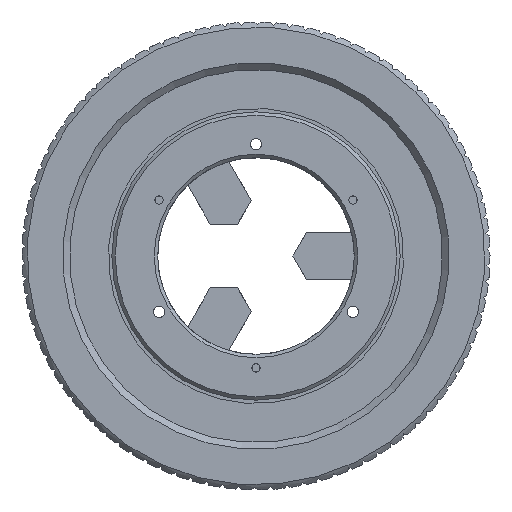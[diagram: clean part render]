
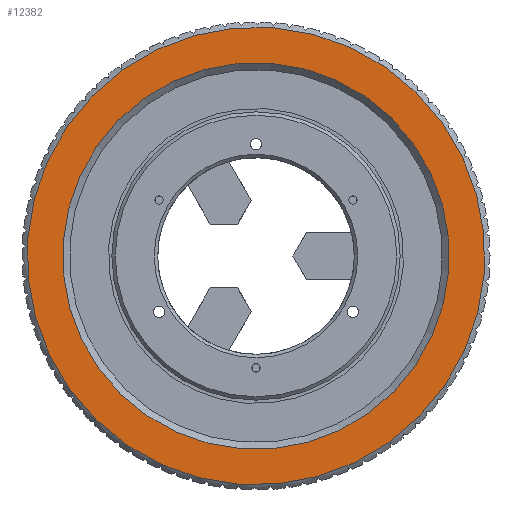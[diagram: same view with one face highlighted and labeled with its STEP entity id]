
A CAD part, left-side view. The second image highlights one B-rep face of the part: STEP entity #12382.
In plain terms, the highlighted planar face has unit normal (-1, 0, 0) as drawn and (1, 0, 0) by its records, which use the part's own axes.
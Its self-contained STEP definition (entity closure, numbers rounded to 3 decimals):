
#2727=PLANE('',#13432);
#3002=FACE_BOUND('',#4221,.T.);
#3483=FACE_OUTER_BOUND('',#4220,.T.);
#4220=EDGE_LOOP('',(#9848));
#4221=EDGE_LOOP('',(#9849));
#4650=CIRCLE('',#13162,67.5);
#4825=CIRCLE('',#13430,57.);
#5679=VERTEX_POINT('',#19815);
#5686=VERTEX_POINT('',#20105);
#7049=EDGE_CURVE('',#5679,#5679,#4650,.T.);
#7231=EDGE_CURVE('',#5686,#5686,#4825,.T.);
#9848=ORIENTED_EDGE('',*,*,#7049,.T.);
#9849=ORIENTED_EDGE('',*,*,#7231,.F.);
#12382=ADVANCED_FACE('',(#3483,#3002),#2727,.T.);
#13162=AXIS2_PLACEMENT_3D('',#19816,#15203,#15204);
#13430=AXIS2_PLACEMENT_3D('',#20106,#15742,#15743);
#13432=AXIS2_PLACEMENT_3D('',#20109,#15746,#15747);
#15203=DIRECTION('center_axis',(1.,0.,0.));
#15204=DIRECTION('ref_axis',(0.,1.,0.));
#15742=DIRECTION('center_axis',(1.,0.,0.));
#15743=DIRECTION('ref_axis',(0.,-1.,0.));
#15746=DIRECTION('center_axis',(1.,0.,0.));
#15747=DIRECTION('ref_axis',(0.,0.,-1.));
#19815=CARTESIAN_POINT('',(39.114,67.5,0.));
#19816=CARTESIAN_POINT('Origin',(39.114,0.,0.));
#20105=CARTESIAN_POINT('',(39.114,57.,0.));
#20106=CARTESIAN_POINT('Origin',(39.114,0.,0.));
#20109=CARTESIAN_POINT('Origin',(39.114,61.25,0.));
